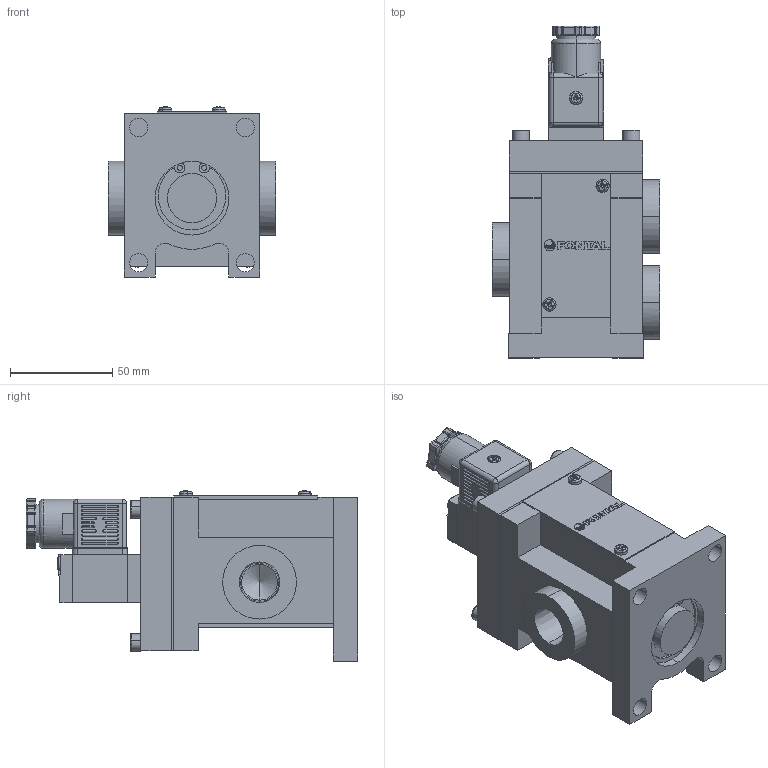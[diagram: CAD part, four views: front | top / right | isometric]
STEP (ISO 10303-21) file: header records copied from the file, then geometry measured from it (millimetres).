
FILE_DESCRIPTION (( 'STEP AP203' ), '1' );
FILE_NAME ('PMS2315#-04-#C#.STEP', '2016-03-09T08:20:02', ( 'Sam Lin' ), ( '' ), 'SwSTEP 2.0', 'SolidWorks 2013', '' );
FILE_SCHEMA (( 'CONFIG_CONTROL_DESIGN' ));
Length unit declared in the file: metre
Products named in the file (16): PM06-C4_1; PMS2315-2; PM06-C6-M3_1; PM15-MARK; PM06-C5_1; PM06-C3-M4_1; PMS2306-6(C); PMS2315-3; PMS2315-6; ISO 4762 M5 x 20; PMS2315-7; PMS2315-4; PMS2315#-04-#C#; PMS2315-5; PM06-C1_1; PMS2315-1
Assembly tree (22 placements, depth 2):
  PMS2315#-04-#C#
    PMS2315-1
    PMS2315-2
    PM15-MARK
    PM06-C3-M4_1  x3
    PMS2315-3
    ISO 4762 M5 x 20  x5
    PMS2315-4
    PMS2315-5
    PM06-C1_1
    PM06-C4_1
    PM06-C6-M3_1  x2
    PM06-C5_1
    PMS2306-6(C)
    PMS2315-6
    PMS2315-7
Bounding box: 82 x 162 x 83.05 mm (x, y, z)
Volume: 475933.7 mm3; surface area: 97980 mm2
Topology: 28 solids, 28 shells, 904 faces, 2276 edges, 1336 vertices
Faces by surface type: plane 379, cylinder 248, bspline 202, cone 75
Entity records: 28943 total; most frequent: CARTESIAN_POINT 11771, ORIENTED_EDGE 3272, DIRECTION 3019, EDGE_CURVE 1636, AXIS2_PLACEMENT_3D 1105, VERTEX_POINT 1035, VECTOR 809, LINE 809
